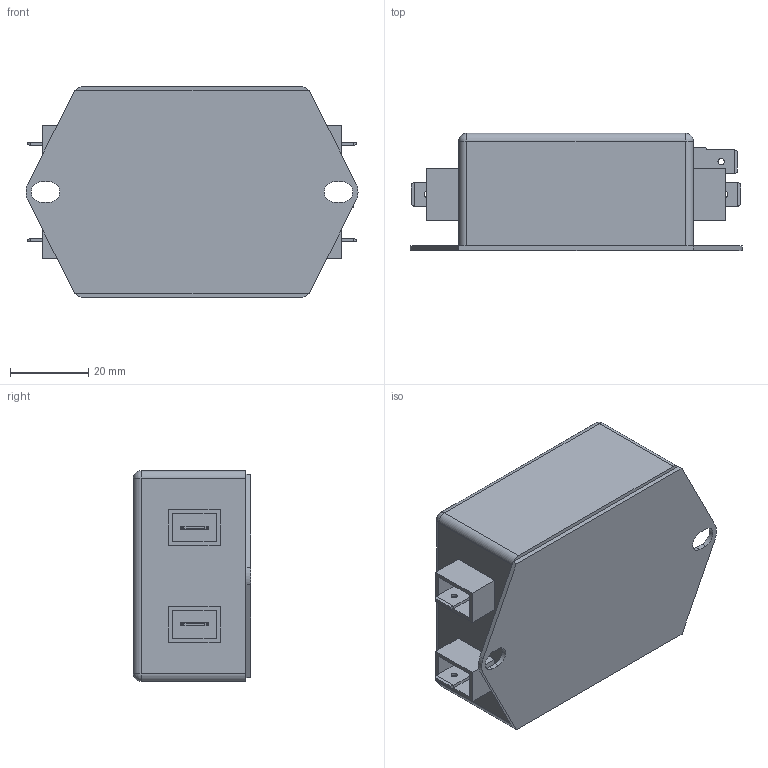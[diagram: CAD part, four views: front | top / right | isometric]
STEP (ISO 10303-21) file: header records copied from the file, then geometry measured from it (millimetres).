
FILE_DESCRIPTION (( 'STEP AP203' ), '1' );
FILE_NAME ('NF-1&3-1ph-FSE.STEP', '2018-03-05T09:10:55', ( '' ), ( '' ), 'SwSTEP 2.0', 'SolidWorks 2017', '' );
FILE_SCHEMA (( 'CONFIG_CONTROL_DESIGN' ));
Length unit declared in the file: millimetre
Products named in the file (5): Fast-on for 1M; NF-1ph-FSE a; NF-1&3-1ph-FSE; Fast-on shell for dispal only; Fast on for display only
Assembly tree (8 placements, depth 3):
  NF-1&3-1ph-FSE
    NF-1ph-FSE a
    Fast on for display only  x4
      Fast-on shell for dispal only
      Fast-on for 1M
    Fast-on for 1M
Bounding box: 85 x 30 x 54 mm (x, y, z)
Volume: 99443.6 mm3; surface area: 18682.5 mm2
Topology: 10 solids, 10 shells, 192 faces, 460 edges, 292 vertices
Faces by surface type: plane 164, cylinder 24, sphere 4
Entity records: 2719 total; most frequent: DIRECTION 376, CARTESIAN_POINT 364, ORIENTED_EDGE 344, EDGE_CURVE 172, LINE 136, VECTOR 136, AXIS2_PLACEMENT_3D 120, VERTEX_POINT 108
